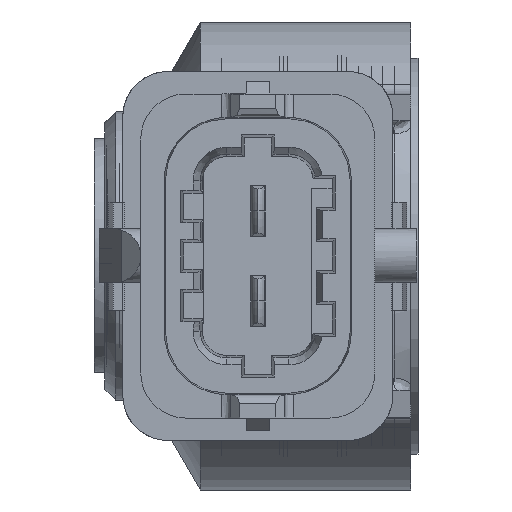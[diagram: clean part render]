
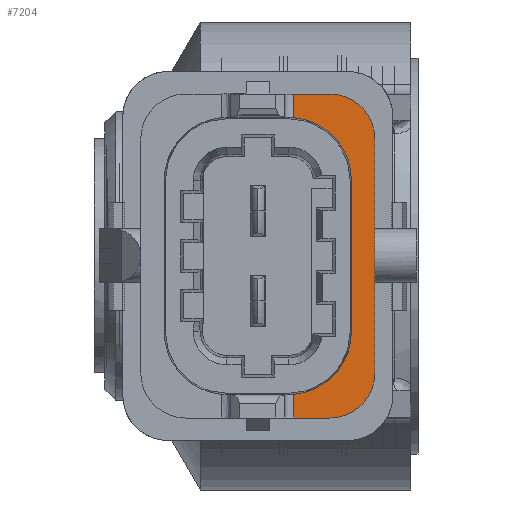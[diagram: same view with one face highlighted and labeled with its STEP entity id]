
A CAD part, left-side view. The second image highlights one B-rep face of the part: STEP entity #7204.
In plain terms, the highlighted planar face has unit normal (-1, 0, 0).
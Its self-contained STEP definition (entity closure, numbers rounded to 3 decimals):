
#4873=AXIS2_PLACEMENT_3D('Circle Axis2P3D',#4871,#4872,$) ;
#4933=AXIS2_PLACEMENT_3D('Circle Axis2P3D',#4931,#4932,$) ;
#7157=AXIS2_PLACEMENT_3D('Plane Axis2P3D',#7154,#7155,#7156) ;
#7168=AXIS2_PLACEMENT_3D('Circle Axis2P3D',#7166,#7167,$) ;
#7182=AXIS2_PLACEMENT_3D('Circle Axis2P3D',#7180,#7181,$) ;
#4871=CARTESIAN_POINT('Axis2P3D Location',(-681.308,175.954,-4.2)) ;
#4875=CARTESIAN_POINT('Vertex',(-681.308,172.454,-4.2)) ;
#4877=CARTESIAN_POINT('Vertex',(-681.308,175.654,-7.687)) ;
#4906=CARTESIAN_POINT('Line Origine',(-681.308,172.454,0.)) ;
#4910=CARTESIAN_POINT('Vertex',(-681.308,172.454,4.2)) ;
#4931=CARTESIAN_POINT('Axis2P3D Location',(-681.308,175.954,4.2)) ;
#4935=CARTESIAN_POINT('Vertex',(-681.308,175.654,7.687)) ;
#6817=CARTESIAN_POINT('Vertex',(-681.308,175.654,9.)) ;
#6825=CARTESIAN_POINT('Line Origine',(-681.308,175.654,9.)) ;
#7137=CARTESIAN_POINT('Vertex',(-681.308,175.654,-9.)) ;
#7140=CARTESIAN_POINT('Line Origine',(-681.308,175.654,9.)) ;
#7154=CARTESIAN_POINT('Axis2P3D Location',(-681.308,184.154,9.)) ;
#7159=CARTESIAN_POINT('Line Origine',(-681.308,174.654,-9.)) ;
#7163=CARTESIAN_POINT('Vertex',(-681.308,173.654,-9.)) ;
#7166=CARTESIAN_POINT('Axis2P3D Location',(-681.308,173.654,-6.5)) ;
#7170=CARTESIAN_POINT('Vertex',(-681.308,171.154,-6.5)) ;
#7173=CARTESIAN_POINT('Line Origine',(-681.308,171.154,0.)) ;
#7177=CARTESIAN_POINT('Vertex',(-681.308,171.154,6.5)) ;
#7180=CARTESIAN_POINT('Axis2P3D Location',(-681.308,173.654,6.5)) ;
#7184=CARTESIAN_POINT('Vertex',(-681.308,173.654,9.)) ;
#7187=CARTESIAN_POINT('Line Origine',(-681.308,174.654,9.)) ;
#4872=DIRECTION('Axis2P3D Direction',(-1.,0.,0.)) ;
#4907=DIRECTION('Vector Direction',(0.,0.,-1.)) ;
#4932=DIRECTION('Axis2P3D Direction',(-1.,0.,0.)) ;
#6826=DIRECTION('Vector Direction',(0.,0.,1.)) ;
#7141=DIRECTION('Vector Direction',(0.,0.,1.)) ;
#7155=DIRECTION('Axis2P3D Direction',(-1.,0.,0.)) ;
#7156=DIRECTION('Axis2P3D XDirection',(0.,-1.,0.)) ;
#7160=DIRECTION('Vector Direction',(0.,-1.,0.)) ;
#7167=DIRECTION('Axis2P3D Direction',(-1.,0.,0.)) ;
#7174=DIRECTION('Vector Direction',(0.,0.,-1.)) ;
#7181=DIRECTION('Axis2P3D Direction',(-1.,0.,0.)) ;
#7188=DIRECTION('Vector Direction',(0.,-1.,0.)) ;
#4908=VECTOR('Line Direction',#4907,1.) ;
#6827=VECTOR('Line Direction',#6826,1.) ;
#7142=VECTOR('Line Direction',#7141,1.) ;
#7161=VECTOR('Line Direction',#7160,1.) ;
#7175=VECTOR('Line Direction',#7174,1.) ;
#7189=VECTOR('Line Direction',#7188,1.) ;
#7193=ORIENTED_EDGE('',*,*,#4879,.T.) ;
#7194=ORIENTED_EDGE('',*,*,#7144,.T.) ;
#7195=ORIENTED_EDGE('',*,*,#7165,.T.) ;
#7196=ORIENTED_EDGE('',*,*,#7172,.T.) ;
#7197=ORIENTED_EDGE('',*,*,#7179,.F.) ;
#7198=ORIENTED_EDGE('',*,*,#7186,.T.) ;
#7199=ORIENTED_EDGE('',*,*,#7191,.F.) ;
#7200=ORIENTED_EDGE('',*,*,#6829,.T.) ;
#7201=ORIENTED_EDGE('',*,*,#4937,.T.) ;
#7202=ORIENTED_EDGE('',*,*,#4912,.T.) ;
#7204=ADVANCED_FACE('MANIFOLD_SOLID_BREP #225',(#7203),#7158,.T.) ;
#4874=CIRCLE('generated circle',#4873,3.5) ;
#4934=CIRCLE('generated circle',#4933,3.5) ;
#7169=CIRCLE('generated circle',#7168,2.5) ;
#7183=CIRCLE('generated circle',#7182,2.5) ;
#4879=EDGE_CURVE('',#4876,#4878,#4874,.F.) ;
#4912=EDGE_CURVE('',#4911,#4876,#4909,.T.) ;
#4937=EDGE_CURVE('',#4936,#4911,#4934,.F.) ;
#6829=EDGE_CURVE('',#6818,#4936,#6828,.F.) ;
#7144=EDGE_CURVE('',#4878,#7138,#7143,.F.) ;
#7165=EDGE_CURVE('',#7138,#7164,#7162,.T.) ;
#7172=EDGE_CURVE('',#7164,#7171,#7169,.T.) ;
#7179=EDGE_CURVE('',#7178,#7171,#7176,.T.) ;
#7186=EDGE_CURVE('',#7178,#7185,#7183,.T.) ;
#7191=EDGE_CURVE('',#6818,#7185,#7190,.T.) ;
#7192=EDGE_LOOP('',(#7193,#7194,#7195,#7196,#7197,#7198,#7199,#7200,#7201,#7202)) ;
#7203=FACE_OUTER_BOUND('',#7192,.T.) ;
#4909=LINE('Line',#4906,#4908) ;
#6828=LINE('Line',#6825,#6827) ;
#7143=LINE('Line',#7140,#7142) ;
#7162=LINE('Line',#7159,#7161) ;
#7176=LINE('Line',#7173,#7175) ;
#7190=LINE('Line',#7187,#7189) ;
#7158=PLANE('',#7157) ;
#4876=VERTEX_POINT('',#4875) ;
#4878=VERTEX_POINT('',#4877) ;
#4911=VERTEX_POINT('',#4910) ;
#4936=VERTEX_POINT('',#4935) ;
#6818=VERTEX_POINT('',#6817) ;
#7138=VERTEX_POINT('',#7137) ;
#7164=VERTEX_POINT('',#7163) ;
#7171=VERTEX_POINT('',#7170) ;
#7178=VERTEX_POINT('',#7177) ;
#7185=VERTEX_POINT('',#7184) ;
